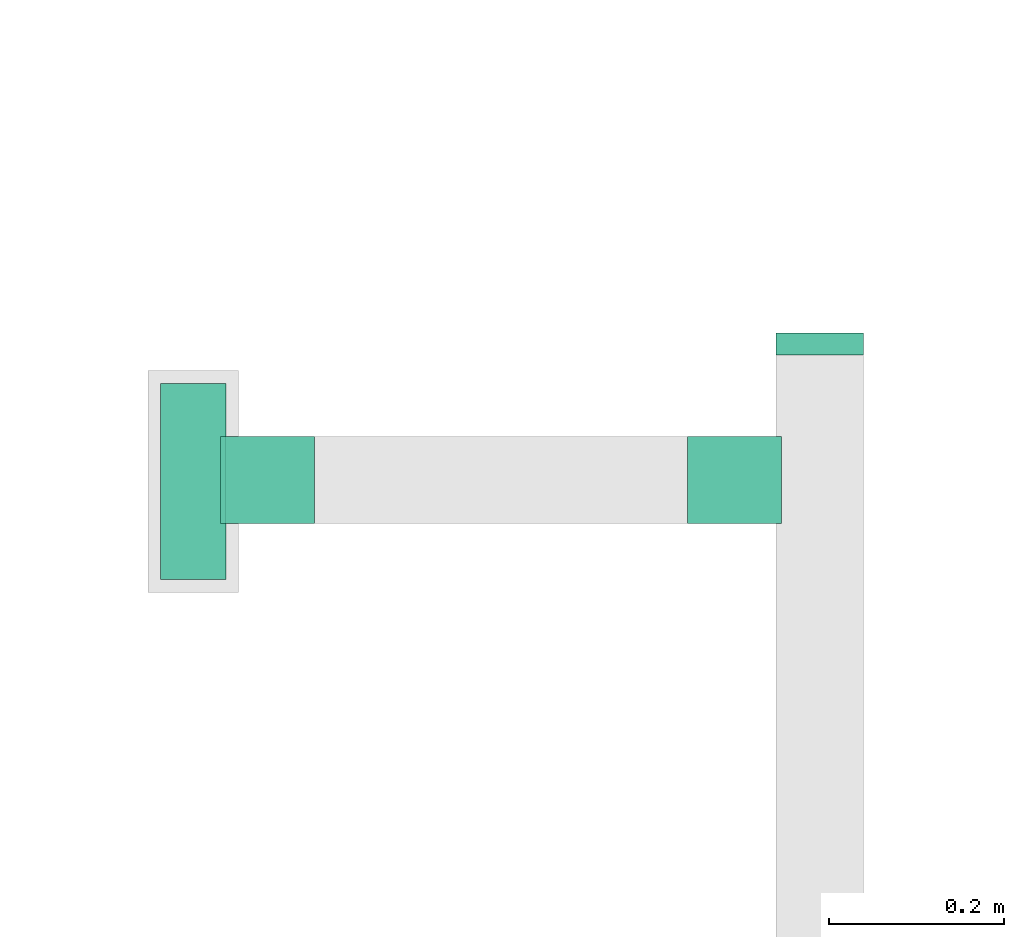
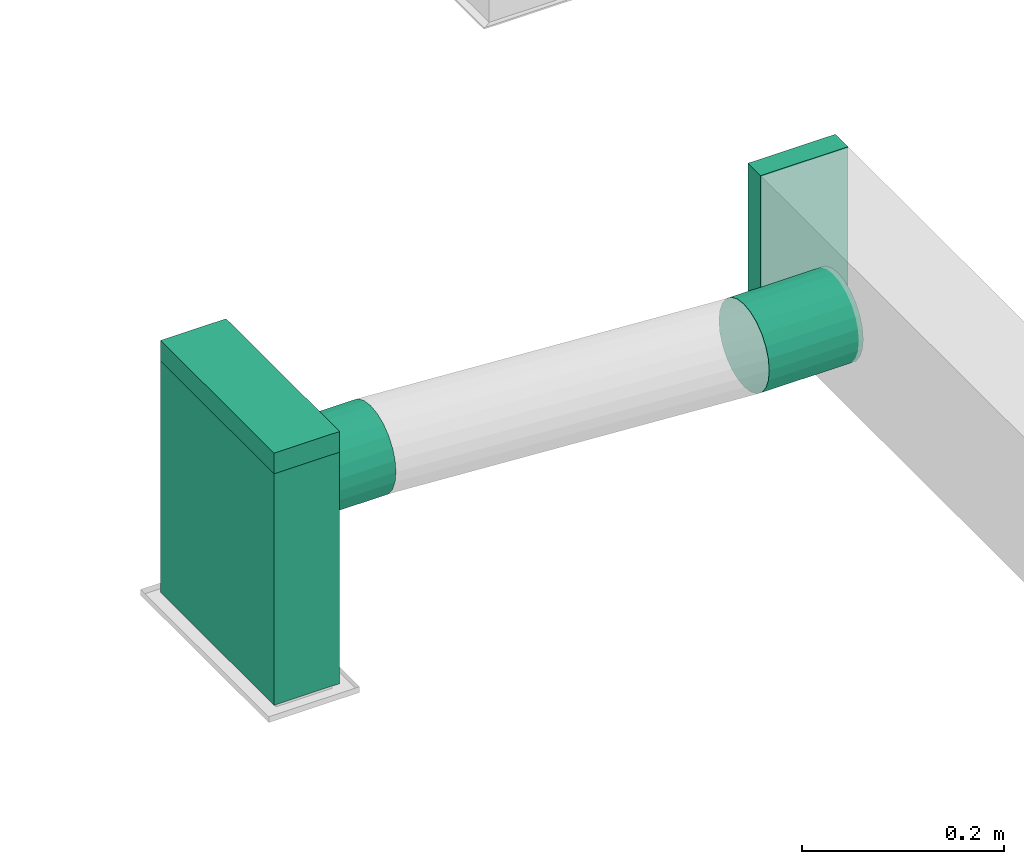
# One storey, part 31 of 60: 4 flow fittings, 1 flow segment.
"""IFC2X3 building model written with IfcOpenShell, lengths in millimetres."""

from ifc_helpers import new_model, entity, si_unit, converted_unit, derived_unit, direction, frame, origin, origin_2d_with_axis, place, context, subcontext, project, spatial, rectangle, extrude, faceted_brep, source, transform, mapped, material, type_object, type_shapes, element, save


model = new_model("IFC2X3")

# Units and contexts
model_context = context("Model", 3, precision=0.01, world=origin(), true_north=direction((6.123233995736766e-17, 1.0)))
body_context = subcontext(model_context, "Body", "Model", "MODEL_VIEW")
ifc_project = project(units=[si_unit("LENGTHUNIT", "METRE", prefix="MILLI"), converted_unit("PLANEANGLEUNIT", "DEGREE", entity("IfcPlaneAngleMeasure", 0.017453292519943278), si_unit("PLANEANGLEUNIT", "RADIAN"), dimensions=[0, 0, 0, 0, 0, 0, 0]), si_unit("AREAUNIT", "SQUARE_METRE"), derived_unit("THERMALTRANSMITTANCEUNIT", [(si_unit("MASSUNIT", "GRAM", prefix="KILO"), 1), (si_unit("THERMODYNAMICTEMPERATUREUNIT", "KELVIN"), -1), (si_unit("TIMEUNIT", "SECOND"), -3)])], contexts=[model_context])

# Site, building, storey
site_placement = place(None, origin())
site = spatial("IfcSite", under=ifc_project, at=site_placement, Name="Default", CompositionType="ELEMENT")
building_placement = place(site_placement, origin())
building = spatial("IfcBuilding", under=site, at=building_placement, Name="Praça Pedro II, 1301 - Centro (Sul), Teresina - PI, 64001-100", CompositionType="ELEMENT")
storey_placement = place(building_placement, frame((0.0, 0.0, 6040.0)))
storey = spatial("IfcBuildingStorey", under=building, at=storey_placement, Name="2PAV", CompositionType="ELEMENT", Elevation=6040.0)

# Flow segment
duct_segment_type = type_object("IfcDuctSegmentType", Name="Duto retangular:Raios cotovelos / torneiras", PredefinedType="NOTDEFINED")
flow_segment_placement = place(storey_placement, origin())
element("IfcFlowSegment", 1, at=flow_segment_placement, inside=storey, type_object=duct_segment_type, Name="Duto retangular:Raios cotovelos / torneiras", ObjectType="Duto retangular:Raios cotovelos / torneiras", context=body_context, shape_type="SweptSolid", body=[
    extrude(rectangle(XDim=75.00000000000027, YDim=225.00000000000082, at=origin_2d_with_axis()), frame((9424.753908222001, -52785.351994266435, 2500.0), z_axis=(0.0, 0.0, 1.0), x_axis=(-1.0, 0.0, 0.0)), (0.0, 0.0, 1.0), 279.99999999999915),
])

# Flow fittings
ifc_material = material(Name="<Unnamed>")
duct_fitting_type_1 = type_object("IfcDuctFittingType", Name="M_Tampa retangular:Padrão", PredefinedType="NOTDEFINED", material=ifc_material)
shared_shape_1 = source(origin(), body_context, "Body", "SweptSolid", [
    extrude(rectangle(XDim=24.999999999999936, YDim=100.0, at=origin_2d_with_axis()), frame((12.500000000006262, 0.0, -87.50000000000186)), (0.0, 0.0, 1.0), 175.0),
])
type_shapes(duct_fitting_type_1, [shared_shape_1])
flow_fitting_1_placement = place(storey_placement, frame((10142.511122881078, -52640.290571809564, 2650.0), z_axis=(0.0, 0.0, 1.0), x_axis=(0.0, 1.0, 0.0)))
element("IfcFlowFitting", 2, at=flow_fitting_1_placement, inside=storey, type_object=duct_fitting_type_1, material=ifc_material, Name="M_Tampa retangular:Padrão", ObjectType="M_Tampa retangular:Padrão", context=body_context, shape_type="MappedRepresentation", body=[
    mapped(shared_shape_1, transform((0.0, 0.0, 0.0), scale=1.0)),
])
duct_fitting_type_2 = type_object("IfcDuctFittingType", Name="M_Tampa retangular:Padrão", PredefinedType="NOTDEFINED", material=ifc_material)
shared_shape_2 = source(origin(), body_context, "Body", "SweptSolid", [
    extrude(rectangle(XDim=24.999999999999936, YDim=225.00000000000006, at=origin_2d_with_axis()), frame((12.500000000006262, 0.0, -37.50000000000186)), (0.0, 0.0, 1.0), 75.0),
])
type_shapes(duct_fitting_type_2, [shared_shape_2])
flow_fitting_2_placement = place(storey_placement, frame((9424.753908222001, -52785.35199426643, 2780.0), z_axis=(-1.0, 0.0, 0.0), x_axis=(0.0, 0.0, 1.0)))
element("IfcFlowFitting", 3, at=flow_fitting_2_placement, inside=storey, type_object=duct_fitting_type_2, material=ifc_material, Name="M_Tampa retangular:Padrão", ObjectType="M_Tampa retangular:Padrão", context=body_context, shape_type="MappedRepresentation", body=[
    mapped(shared_shape_2, transform((0.0, 0.0, 0.0), scale=1.0)),
])
duct_fitting_type_3 = type_object("IfcDuctFittingType", Name="M_Encaixe de duto redondo:Padrão", PredefinedType="NOTDEFINED", material=ifc_material)
shared_shape_3 = source(origin(), body_context, "Body", "Brep", [
    faceted_brep([(101.60000000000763, 50.0, 0.0), (101.60000000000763, 48.296291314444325, 12.940952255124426), (101.60000000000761, 43.301270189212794, 25.0), (101.6000000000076, 35.35533905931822, 35.35533905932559), (101.60000000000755, 25.0, 43.30127018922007), (101.60000000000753, 12.94095225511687, 48.29629131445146), (101.6000000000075, 0.0, 50.0), (101.60000000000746, -12.940952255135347, 48.29629131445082), (101.60000000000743, -25.0, 43.30127018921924), (101.6000000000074, -35.35533905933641, 35.355339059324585), (101.60000000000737, -43.301270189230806, 25.0), (101.60000000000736, -48.296291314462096, 12.940952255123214), (101.60000000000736, -50.0, 0.0), (101.60000000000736, -48.29629131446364, -12.94095225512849), (101.60000000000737, -43.301270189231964, -25.0), (101.6000000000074, -35.35533905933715, -35.35533905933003), (101.60000000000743, -25.0, -43.30127018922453), (101.60000000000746, -12.94095225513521, -48.29629131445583), (101.6000000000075, 0.0, -50.0), (101.60000000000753, 12.9409522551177, -48.29629131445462), (101.60000000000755, 25.0, -43.30127018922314), (101.6000000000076, 35.35533905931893, -35.35533905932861), (101.60000000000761, 43.30127018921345, -25.0), (101.60000000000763, 48.2962913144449, -12.940952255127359), (0.0, 12.940952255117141, 48.29629131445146), (-6.0959999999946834, 12.94095225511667, 48.29629131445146), (-6.095999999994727, 0.0, 50.0), (0.0, 0.0, 50.0), (0.0, 25.0, 43.30127018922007), (-6.0959999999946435, 25.0, 43.30127018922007), (0.0, 35.35533905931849, 35.35533905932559), (-6.095999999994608, 35.35533905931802, 35.35533905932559), (0.0, 48.296291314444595, 12.940952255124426), (-6.095999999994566, 48.296291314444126, 12.940952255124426), (-6.095999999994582, 43.3012701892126, 25.0), (0.0, 43.301270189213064, 25.0), (0.0, 50.0, 0.0), (-6.09599999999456, 50.0, 0.0), (0.0, 43.30127018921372, -25.0), (-6.095999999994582, 43.30127018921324, -25.0), (-6.095999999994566, 48.296291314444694, -12.940952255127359), (0.0, 48.29629131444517, -12.940952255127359), (0.0, 35.3553390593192, -35.35533905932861), (-6.095999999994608, 35.35533905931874, -35.35533905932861), (0.0, 12.940952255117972, -48.29629131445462), (-6.0959999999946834, 12.940952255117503, -48.29629131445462), (-6.0959999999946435, 25.0, -43.30127018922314), (0.0, 25.0, -43.30127018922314), (0.0, 0.0, -50.0), (-6.095999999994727, 0.0, -50.0), (0.0, -12.940952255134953, -48.29629131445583), (-6.09599999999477, -12.940952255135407, -48.29629131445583), (0.0, -25.0, -43.30127018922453), (-6.0959999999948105, -25.0, -43.30127018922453), (0.0, -35.35533905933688, -35.35533905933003), (-6.095999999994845, -35.355339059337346, -35.35533905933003), (0.0, -48.29629131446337, -12.94095225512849), (-6.095999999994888, -48.29629131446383, -12.94095225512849), (-6.095999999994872, -43.30127018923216, -25.0), (0.0, -43.301270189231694, -25.0), (0.0, -50.0, 0.0), (-6.095999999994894, -50.0, 0.0), (0.0, -48.296291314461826, 12.940952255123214), (-6.095999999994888, -48.296291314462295, 12.940952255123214), (0.0, -43.30127018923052, 25.0), (-6.095999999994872, -43.301270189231, 25.0), (0.0, -35.35533905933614, 35.355339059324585), (-6.095999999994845, -35.35533905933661, 35.355339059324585), (0.0, -12.940952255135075, 48.29629131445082), (-6.09599999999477, -12.940952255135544, 48.29629131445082), (-6.0959999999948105, -25.0, 43.30127018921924), (0.0, -25.0, 43.30127018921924)], [[[0, 1, 2, 3, 4, 5, 6, 7, 8, 9, 10, 11, 12, 13, 14, 15, 16, 17, 18, 19, 20, 21, 22, 23]], [[24, 25, 26, 27, 6, 5]], [[28, 29, 25, 24, 5, 4]], [[4, 3, 30, 31, 29, 28]], [[32, 33, 34, 35, 2, 1]], [[36, 37, 33, 32, 1, 0]], [[3, 2, 35, 34, 31, 30]], [[23, 22, 38, 39, 40, 41]], [[0, 23, 41, 40, 37, 36]], [[22, 21, 42, 43, 39, 38]], [[44, 45, 46, 47, 20, 19]], [[48, 49, 45, 44, 19, 18]], [[21, 20, 47, 46, 43, 42]], [[50, 51, 49, 48, 18, 17]], [[52, 53, 51, 50, 17, 16]], [[16, 15, 54, 55, 53, 52]], [[56, 57, 58, 59, 14, 13]], [[60, 61, 57, 56, 13, 12]], [[15, 14, 59, 58, 55, 54]], [[62, 63, 61, 60, 12, 11]], [[64, 65, 63, 62, 11, 10]], [[10, 9, 66, 67, 65, 64]], [[68, 69, 70, 71, 8, 7]], [[27, 26, 69, 68, 7, 6]], [[9, 8, 71, 70, 67, 66]], [[49, 51, 53, 55, 58, 57, 61, 63, 65, 67, 70, 69, 26, 25, 29, 31, 34, 33, 37, 40, 39, 43, 46, 45]]]),
])
type_shapes(duct_fitting_type_3, [shared_shape_3])
flow_fitting_3_placement = place(storey_placement, frame((9462.253908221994, -52783.51066308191, 2681.208672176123), z_axis=(0.0, -1.0, 0.0), x_axis=(1.0, 0.0, 0.0)))
element("IfcFlowFitting", 4, at=flow_fitting_3_placement, inside=storey, type_object=duct_fitting_type_3, material=ifc_material, Name="M_Encaixe de duto redondo:Padrão", ObjectType="M_Encaixe de duto redondo:Padrão", context=body_context, shape_type="MappedRepresentation", body=[
    mapped(shared_shape_3, transform((0.0, 0.0, 0.0), scale=1.0)),
])
duct_fitting_type_4 = type_object("IfcDuctFittingType", Name="M_Encaixe de duto redondo:Padrão", PredefinedType="NOTDEFINED", material=ifc_material)
shared_shape_4 = source(origin(), body_context, "Body", "Brep", [
    faceted_brep([(101.6000000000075, 0.0, -50.0), (101.60000000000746, 12.94095225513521, -48.29629131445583), (101.60000000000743, 25.0, -43.30127018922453), (101.6000000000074, 35.35533905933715, -35.35533905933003), (101.60000000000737, 43.301270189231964, -25.0), (101.60000000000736, 48.29629131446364, -12.94095225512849), (101.60000000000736, 50.0, 0.0), (101.60000000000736, 48.296291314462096, 12.940952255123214), (101.60000000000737, 43.301270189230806, 25.0), (101.6000000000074, 35.35533905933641, 35.355339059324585), (101.60000000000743, 25.0, 43.30127018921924), (101.60000000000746, 12.940952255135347, 48.29629131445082), (101.6000000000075, 0.0, 50.0), (101.60000000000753, -12.94095225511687, 48.29629131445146), (101.60000000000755, -25.0, 43.30127018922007), (101.6000000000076, -35.35533905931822, 35.35533905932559), (101.60000000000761, -43.301270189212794, 25.0), (101.60000000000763, -48.296291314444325, 12.940952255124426), (101.60000000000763, -50.0, 0.0), (101.60000000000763, -48.2962913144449, -12.940952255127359), (101.60000000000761, -43.30127018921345, -25.0), (101.6000000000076, -35.35533905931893, -35.35533905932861), (101.60000000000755, -25.0, -43.30127018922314), (101.60000000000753, -12.9409522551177, -48.29629131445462), (0.0, 0.0, 50.0), (-6.095999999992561, 0.0, 50.0), (-6.095999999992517, -12.94095225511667, 48.29629131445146), (0.0, -12.940952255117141, 48.29629131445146), (-6.095999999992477, -25.0, 43.30127018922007), (0.0, -25.0, 43.30127018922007), (-6.095999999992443, -35.35533905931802, 35.35533905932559), (0.0, -35.35533905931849, 35.35533905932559), (0.0, -43.301270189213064, 25.0), (-6.095999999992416, -43.3012701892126, 25.0), (-6.0959999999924, -48.296291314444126, 12.940952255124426), (0.0, -48.296291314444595, 12.940952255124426), (-6.095999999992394, -50.0, 0.0), (0.0, -50.0, 0.0), (0.0, -48.29629131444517, -12.940952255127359), (-6.0959999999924, -48.296291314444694, -12.940952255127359), (-6.095999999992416, -43.30127018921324, -25.0), (0.0, -43.30127018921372, -25.0), (-6.095999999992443, -35.35533905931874, -35.35533905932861), (0.0, -35.3553390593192, -35.35533905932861), (0.0, -25.0, -43.30127018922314), (-6.095999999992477, -25.0, -43.30127018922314), (-6.095999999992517, -12.940952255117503, -48.29629131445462), (0.0, -12.940952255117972, -48.29629131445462), (-6.095999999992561, 0.0, -50.0), (0.0, 0.0, -50.0), (-6.095999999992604, 12.940952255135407, -48.29629131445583), (0.0, 12.940952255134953, -48.29629131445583), (-6.095999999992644, 25.0, -43.30127018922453), (0.0, 25.0, -43.30127018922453), (-6.09599999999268, 35.355339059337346, -35.35533905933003), (0.0, 35.35533905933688, -35.35533905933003), (0.0, 43.301270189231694, -25.0), (-6.0959999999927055, 43.30127018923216, -25.0), (-6.0959999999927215, 48.29629131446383, -12.94095225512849), (0.0, 48.29629131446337, -12.94095225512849), (-6.095999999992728, 50.0, 0.0), (0.0, 50.0, 0.0), (-6.0959999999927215, 48.296291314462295, 12.940952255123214), (0.0, 48.296291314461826, 12.940952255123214), (-6.0959999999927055, 43.301270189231, 25.0), (0.0, 43.30127018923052, 25.0), (-6.09599999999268, 35.35533905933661, 35.355339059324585), (0.0, 35.35533905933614, 35.355339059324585), (0.0, 25.0, 43.30127018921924), (-6.095999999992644, 25.0, 43.30127018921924), (-6.095999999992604, 12.940952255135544, 48.29629131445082), (0.0, 12.940952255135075, 48.29629131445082)], [[[0, 1, 2, 3, 4, 5, 6, 7, 8, 9, 10, 11, 12, 13, 14, 15, 16, 17, 18, 19, 20, 21, 22, 23]], [[13, 12, 24, 25, 26, 27]], [[14, 13, 27, 26, 28, 29]], [[29, 28, 30, 31, 15, 14]], [[17, 16, 32, 33, 34, 35]], [[18, 17, 35, 34, 36, 37]], [[31, 30, 33, 32, 16, 15]], [[38, 39, 40, 41, 20, 19]], [[37, 36, 39, 38, 19, 18]], [[41, 40, 42, 43, 21, 20]], [[23, 22, 44, 45, 46, 47]], [[0, 23, 47, 46, 48, 49]], [[43, 42, 45, 44, 22, 21]], [[1, 0, 49, 48, 50, 51]], [[2, 1, 51, 50, 52, 53]], [[53, 52, 54, 55, 3, 2]], [[5, 4, 56, 57, 58, 59]], [[6, 5, 59, 58, 60, 61]], [[55, 54, 57, 56, 4, 3]], [[7, 6, 61, 60, 62, 63]], [[8, 7, 63, 62, 64, 65]], [[65, 64, 66, 67, 9, 8]], [[11, 10, 68, 69, 70, 71]], [[12, 11, 71, 70, 25, 24]], [[67, 66, 69, 68, 10, 9]], [[46, 45, 42, 40, 39, 36, 34, 33, 30, 28, 26, 25, 70, 69, 66, 64, 62, 60, 58, 57, 54, 52, 50, 48]]]),
])
type_shapes(duct_fitting_type_4, [shared_shape_4])
flow_fitting_4_placement = place(storey_placement, frame((10092.511122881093, -52783.51066308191, 2654.556856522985), z_axis=(0.0, 0.0, -1.0), x_axis=(-1.0, 0.0, 0.0)))
element("IfcFlowFitting", 5, at=flow_fitting_4_placement, inside=storey, type_object=duct_fitting_type_4, material=ifc_material, Name="M_Encaixe de duto redondo:Padrão", ObjectType="M_Encaixe de duto redondo:Padrão", context=body_context, shape_type="MappedRepresentation", body=[
    mapped(shared_shape_4, transform((0.0, 0.0, 0.0), scale=1.0)),
])

save(model, "model.ifc")
